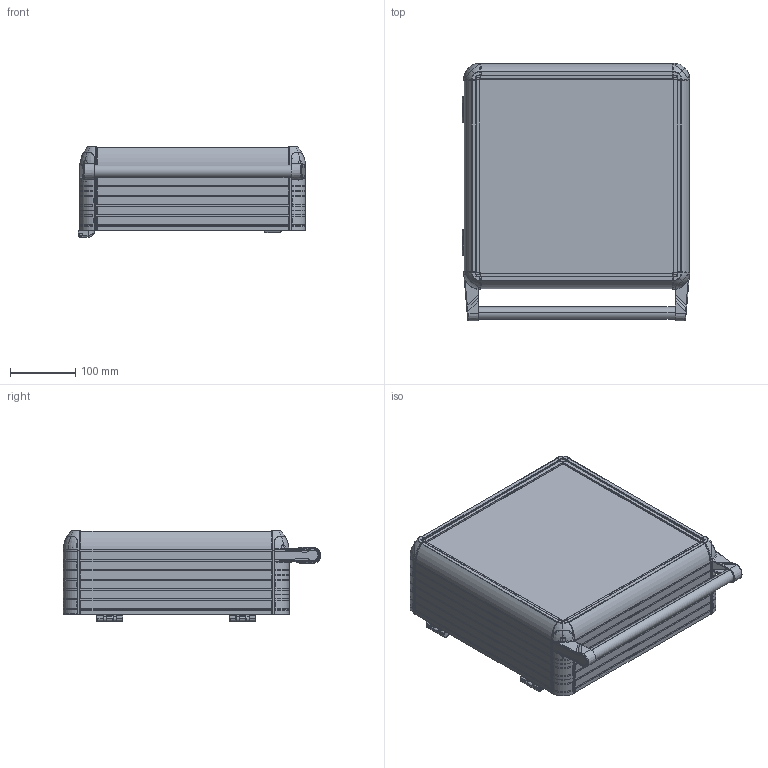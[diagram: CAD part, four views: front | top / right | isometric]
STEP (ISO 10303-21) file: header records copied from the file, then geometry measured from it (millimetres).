
FILE_DESCRIPTION (( 'STEP AP214' ), '1' );
FILE_NAME ('1200-0104.STEP', '2022-09-01T07:44:49', ( '' ), ( '' ), 'SwSTEP 2.0', 'SolidWorks 2022', '' );
FILE_SCHEMA (( 'AUTOMOTIVE_DESIGN' ));
Length unit declared in the file: millimetre
Products named in the file (8): ECO1200-0100(SOL); ECO1200-0100(SAÐ); boru_325; ECO1200-0000; ARKA_KAPAK_300X300; 1200-0104; 300X300; HPECO-120-001-295_295
Assembly tree (11 placements, depth 2):
  1200-0104
    300X300
    ARKA_KAPAK_300X300
    ECO1200-0000  x2
    boru_325
    ECO1200-0100(SAÐ)
    ECO1200-0100(SOL)
    HPECO-120-001-295_295  x4
Bounding box: 349.03 x 395.81 x 139.15 mm (x, y, z)
Volume: 2985614.8 mm3; surface area: 992478 mm2
Topology: 18 solids, 71 shells, 6373 faces, 17167 edges, 10720 vertices
Faces by surface type: plane 2581, cylinder 1652, bspline 1218, cone 582, torus 294, sphere 46
Entity records: 246990 total; most frequent: CARTESIAN_POINT 68947, ORIENTED_EDGE 28370, DIRECTION 22600, EDGE_CURVE 14185, VERTEX_POINT 8853, AXIS2_PLACEMENT_3D 8125, VECTOR 6350, LINE 6350
